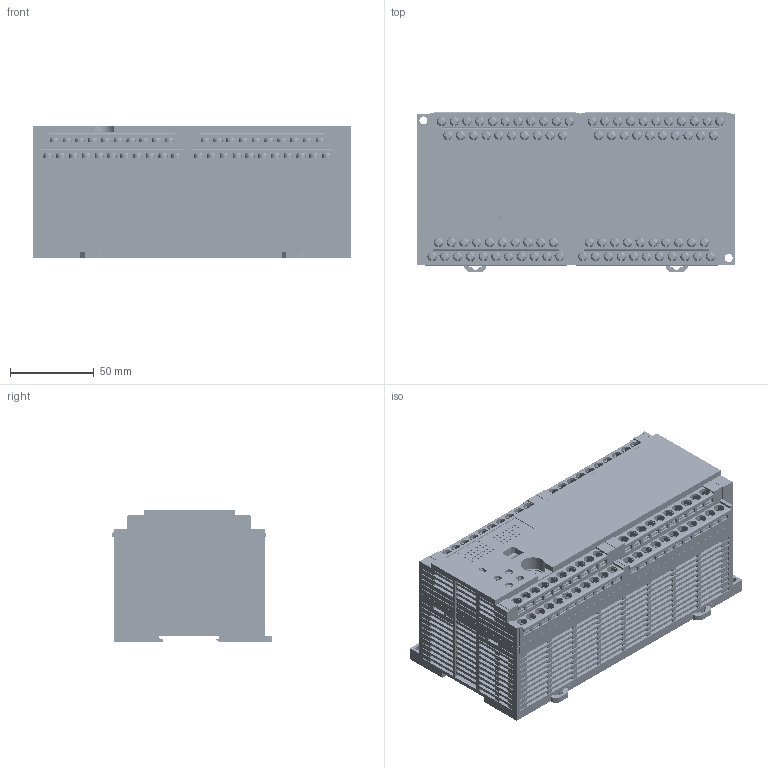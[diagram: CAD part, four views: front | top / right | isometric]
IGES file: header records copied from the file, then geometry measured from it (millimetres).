
Global section: preprocessor: SolidWorks 2008; organization: PanasonicElectricWorks; date: 090828.104735; units: millimetre
Bounding box: 190 x 95.6 x 79 mm (x, y, z)
Surface area: 152987.8 mm2 (no closed solid volume)
Topology: 0 solids, 0 shells, 5449 faces, 44110 edges, 44110 vertices
Faces by surface type: bspline 4994, revolution 455
